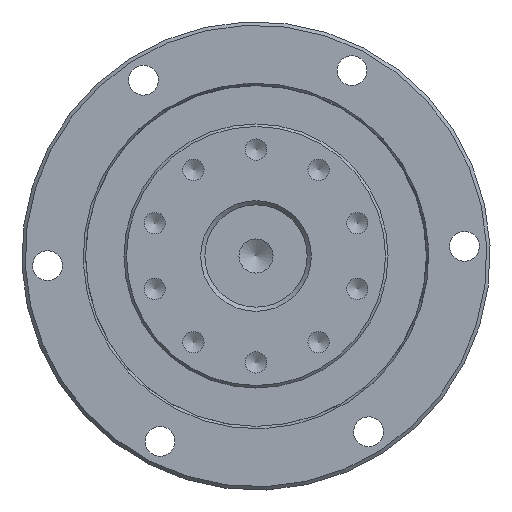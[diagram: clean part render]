
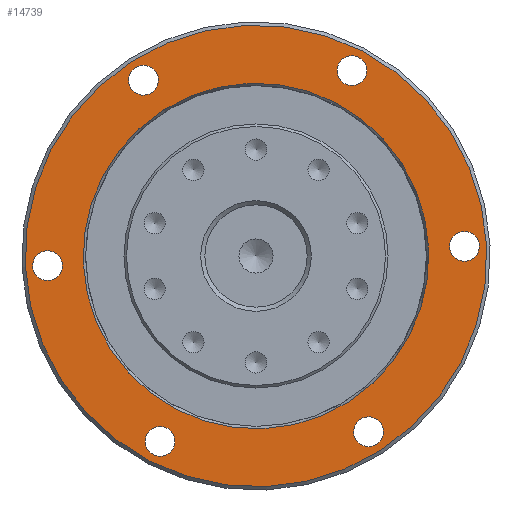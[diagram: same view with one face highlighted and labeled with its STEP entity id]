
A CAD part, left-side view. The second image highlights one B-rep face of the part: STEP entity #14739.
In plain terms, the highlighted planar face has unit normal (-1, 0, 0).
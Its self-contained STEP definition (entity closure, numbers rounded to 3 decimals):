
#114 = AXIS2_PLACEMENT_3D ( 'NONE', #13100, #2121, #14337 ) ;
#430 = FACE_BOUND ( 'NONE', #11408, .T. ) ;
#521 = CARTESIAN_POINT ( 'NONE',  ( -16.954, 0., 0. ) ) ;
#1152 = ORIENTED_EDGE ( 'NONE', *, *, #13928, .T. ) ;
#1337 = EDGE_LOOP ( 'NONE', ( #16899 ) ) ;
#1597 = EDGE_LOOP ( 'NONE', ( #19641 ) ) ;
#2121 = DIRECTION ( 'NONE',  ( 1., 0., 0. ) ) ;
#2223 = DIRECTION ( 'NONE',  ( 0., -0.046, -0.999 ) ) ;
#2344 = VERTEX_POINT ( 'NONE', #19589 ) ;
#2486 = CARTESIAN_POINT ( 'NONE',  ( -16.954, -24.474, 1.126 ) ) ;
#3395 = FACE_BOUND ( 'NONE', #1597, .T. ) ;
#3439 = EDGE_CURVE ( 'NONE', #13970, #13970, #8969, .T. ) ;
#3503 = FACE_BOUND ( 'NONE', #1337, .T. ) ;
#3567 = AXIS2_PLACEMENT_3D ( 'NONE', #521, #14777, #8631 ) ;
#4183 = AXIS2_PLACEMENT_3D ( 'NONE', #9761, #16014, #17667 ) ;
#4583 = AXIS2_PLACEMENT_3D ( 'NONE', #10811, #18806, #13978 ) ;
#4588 = CARTESIAN_POINT ( 'NONE',  ( -16.954, 11.181, -23.506 ) ) ;
#4794 = AXIS2_PLACEMENT_3D ( 'NONE', #14015, #20289, #6206 ) ;
#5105 = CARTESIAN_POINT ( 'NONE',  ( -16.954, -11.342, 20.01 ) ) ;
#6206 = DIRECTION ( 'NONE',  ( 0., -0.046, -0.999 ) ) ;
#6223 = ORIENTED_EDGE ( 'NONE', *, *, #19199, .T. ) ;
#6539 = CARTESIAN_POINT ( 'NONE',  ( -16.954, 0.932, 20.267 ) ) ;
#6567 = PLANE ( 'NONE',  #4183 ) ;
#6667 = FACE_BOUND ( 'NONE', #12605, .T. ) ;
#6736 = CARTESIAN_POINT ( 'NONE',  ( -16.954, 13.132, 18.884 ) ) ;
#7278 = CARTESIAN_POINT ( 'NONE',  ( -16.954, 0., 0. ) ) ;
#7375 = DIRECTION ( 'NONE',  ( -1., 0., 0. ) ) ;
#8011 = FACE_OUTER_BOUND ( 'NONE', #10595, .T. ) ;
#8179 = CARTESIAN_POINT ( 'NONE',  ( -16.954, 13.212, 20.632 ) ) ;
#8497 = VERTEX_POINT ( 'NONE', #6539 ) ;
#8604 = VERTEX_POINT ( 'NONE', #19899 ) ;
#8631 = DIRECTION ( 'NONE',  ( 0., 0.046, 0.999 ) ) ;
#8765 = EDGE_LOOP ( 'NONE', ( #9582 ) ) ;
#8969 = CIRCLE ( 'NONE', #114, 1.75 ) ;
#9066 = CIRCLE ( 'NONE', #14939, 1.75 ) ;
#9181 = CIRCLE ( 'NONE', #4583, 1.75 ) ;
#9267 = CARTESIAN_POINT ( 'NONE',  ( -16.954, 24.394, -2.874 ) ) ;
#9441 = AXIS2_PLACEMENT_3D ( 'NONE', #2486, #20243, #20140 ) ;
#9582 = ORIENTED_EDGE ( 'NONE', *, *, #11062, .T. ) ;
#9761 = CARTESIAN_POINT ( 'NONE',  ( -16.954, 20.267, -0.932 ) ) ;
#10049 = CIRCLE ( 'NONE', #11686, 20.289 ) ;
#10341 = CIRCLE ( 'NONE', #17231, 1.75 ) ;
#10595 = EDGE_LOOP ( 'NONE', ( #12668 ) ) ;
#10809 = CARTESIAN_POINT ( 'NONE',  ( -16.954, -24.555, -0.622 ) ) ;
#10811 = CARTESIAN_POINT ( 'NONE',  ( -16.954, 11.262, -21.758 ) ) ;
#11062 = EDGE_CURVE ( 'NONE', #19081, #19081, #10341, .T. ) ;
#11091 = DIRECTION ( 'NONE',  ( 0., -0.046, -0.999 ) ) ;
#11408 = EDGE_LOOP ( 'NONE', ( #6223 ) ) ;
#11686 = AXIS2_PLACEMENT_3D ( 'NONE', #7278, #7375, #13737 ) ;
#11809 = EDGE_CURVE ( 'NONE', #15984, #15984, #9066, .T. ) ;
#12020 = EDGE_CURVE ( 'NONE', #8497, #8497, #10049, .T. ) ;
#12605 = EDGE_LOOP ( 'NONE', ( #16764 ) ) ;
#12668 = ORIENTED_EDGE ( 'NONE', *, *, #14930, .T. ) ;
#12734 = FACE_BOUND ( 'NONE', #13694, .T. ) ;
#12929 = FACE_BOUND ( 'NONE', #16151, .T. ) ;
#13100 = CARTESIAN_POINT ( 'NONE',  ( -16.954, 24.474, -1.126 ) ) ;
#13676 = VERTEX_POINT ( 'NONE', #10809 ) ;
#13694 = EDGE_LOOP ( 'NONE', ( #1152 ) ) ;
#13737 = DIRECTION ( 'NONE',  ( 0., 0.046, 0.999 ) ) ;
#13928 = EDGE_CURVE ( 'NONE', #8604, #8604, #19220, .T. ) ;
#13970 = VERTEX_POINT ( 'NONE', #9267 ) ;
#13978 = DIRECTION ( 'NONE',  ( 0., -0.046, -0.999 ) ) ;
#14015 = CARTESIAN_POINT ( 'NONE',  ( -16.954, -13.212, -20.632 ) ) ;
#14337 = DIRECTION ( 'NONE',  ( 0., -0.046, -0.999 ) ) ;
#14475 = FACE_BOUND ( 'NONE', #8765, .T. ) ;
#14739 = ADVANCED_FACE ( 'NONE', ( #14475, #3395, #430, #12734, #6667, #3503, #12929, #8011 ), #6567, .F. ) ;
#14777 = DIRECTION ( 'NONE',  ( -1., 0., 0. ) ) ;
#14930 = EDGE_CURVE ( 'NONE', #2344, #2344, #19635, .T. ) ;
#14939 = AXIS2_PLACEMENT_3D ( 'NONE', #18694, #17550, #11091 ) ;
#15840 = EDGE_CURVE ( 'NONE', #17121, #17121, #9181, .T. ) ;
#15984 = VERTEX_POINT ( 'NONE', #5105 ) ;
#16014 = DIRECTION ( 'NONE',  ( 1., 0., 0. ) ) ;
#16151 = EDGE_LOOP ( 'NONE', ( #18392 ) ) ;
#16764 = ORIENTED_EDGE ( 'NONE', *, *, #15840, .T. ) ;
#16899 = ORIENTED_EDGE ( 'NONE', *, *, #3439, .T. ) ;
#17121 = VERTEX_POINT ( 'NONE', #4588 ) ;
#17231 = AXIS2_PLACEMENT_3D ( 'NONE', #8179, #17521, #2223 ) ;
#17521 = DIRECTION ( 'NONE',  ( 1., 0., 0. ) ) ;
#17550 = DIRECTION ( 'NONE',  ( 1., 0., 0. ) ) ;
#17667 = DIRECTION ( 'NONE',  ( 0., -0.046, -0.999 ) ) ;
#18299 = CIRCLE ( 'NONE', #9441, 1.75 ) ;
#18392 = ORIENTED_EDGE ( 'NONE', *, *, #12020, .F. ) ;
#18694 = CARTESIAN_POINT ( 'NONE',  ( -16.954, -11.262, 21.758 ) ) ;
#18806 = DIRECTION ( 'NONE',  ( 1., 0., 0. ) ) ;
#19081 = VERTEX_POINT ( 'NONE', #6736 ) ;
#19199 = EDGE_CURVE ( 'NONE', #13676, #13676, #18299, .T. ) ;
#19220 = CIRCLE ( 'NONE', #4794, 1.75 ) ;
#19589 = CARTESIAN_POINT ( 'NONE',  ( -16.954, 1.246, 27.071 ) ) ;
#19635 = CIRCLE ( 'NONE', #3567, 27.1 ) ;
#19641 = ORIENTED_EDGE ( 'NONE', *, *, #11809, .T. ) ;
#19899 = CARTESIAN_POINT ( 'NONE',  ( -16.954, -13.293, -22.38 ) ) ;
#20140 = DIRECTION ( 'NONE',  ( 0., -0.046, -0.999 ) ) ;
#20243 = DIRECTION ( 'NONE',  ( 1., 0., 0. ) ) ;
#20289 = DIRECTION ( 'NONE',  ( 1., 0., 0. ) ) ;
